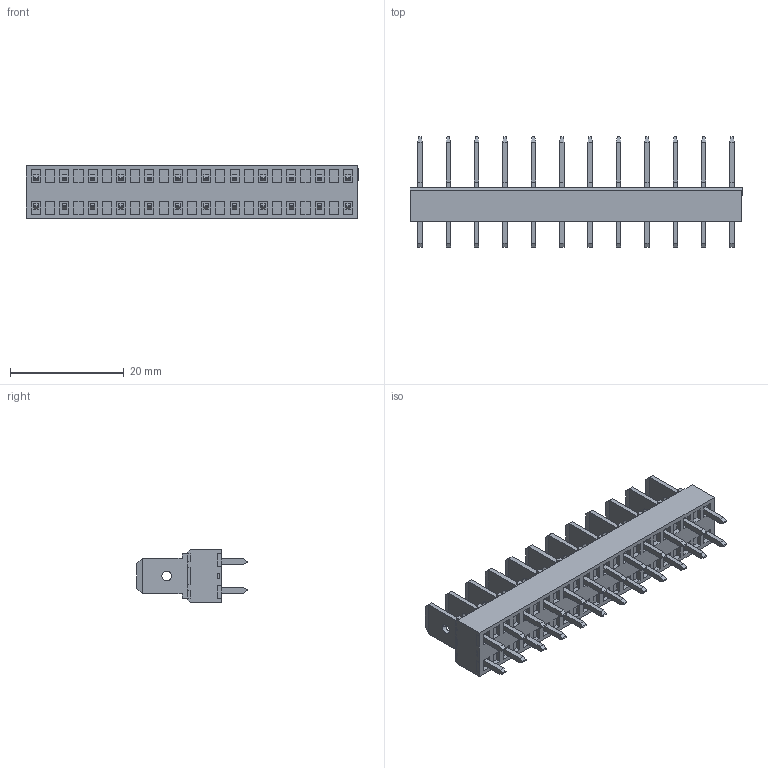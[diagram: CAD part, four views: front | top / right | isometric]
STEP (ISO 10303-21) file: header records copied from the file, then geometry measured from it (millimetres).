
FILE_DESCRIPTION (( 'STEP AP214' ), '1' );
FILE_NAME ('900-SUN-5-12.STEP', '2007-10-31T20:37:14', ( 'weco' ), ( 'weco' ), 'SwSTEP 2.0', 'SolidWorks 2007', '' );
FILE_SCHEMA (( 'AUTOMOTIVE_DESIGN' ));
Length unit declared in the file: millimetre
Products named in the file (1): 900-SUN-5-12
Bounding box: 58.5 x 19.5 x 9.4 mm (x, y, z)
Volume: 3706.3 mm3; surface area: 4481.3 mm2
Topology: 25 solids, 25 shells, 1298 faces, 3133 edges, 1978 vertices
Faces by surface type: plane 1153, cylinder 145
Entity records: 37138 total; most frequent: CARTESIAN_POINT 6410, ORIENTED_EDGE 6266, DIRECTION 6021, EDGE_CURVE 3133, VECTOR 2843, LINE 2843, VERTEX_POINT 1978, AXIS2_PLACEMENT_3D 1589
